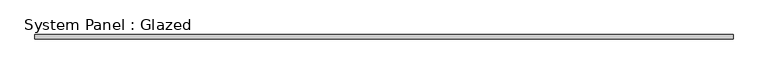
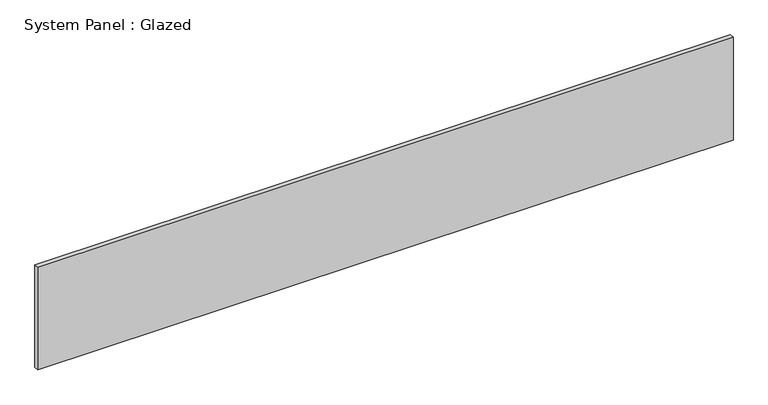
"""IFC4 building model written with IfcOpenShell, lengths in millimetres: plate geometry, System Panel : Glazed."""

from ifc_helpers import new_model, si_unit, origin, origin_with_axes, place, context, project, spatial, polyline, outline, extrude, source, transform, mapped, element, save


def system_panel_glazed_6fe05368(model_context):
    return source(origin(), model_context, "Body", "SweptSolid", [
        extrude(outline(polyline([(1925.0, -49.5), (-1925.0, -49.5), (-1925.0, -24.5), (1925.0, -24.5), (1925.0, -49.5)])), origin_with_axes(), (0.0, 0.0, 1.0), 600.0),
    ])


if __name__ == "__main__":
    model = new_model("IFC4")
    model_context = context("Model", 3, world=origin())
    ifc_project = project(units=[si_unit("LENGTHUNIT", "METRE", prefix="MILLI")], contexts=[model_context])
    site = spatial("IfcSite", under=ifc_project)
    building = spatial("IfcBuilding", under=site)
    placement = place(None, origin())
    system_panel_glazed_shape = system_panel_glazed_6fe05368(model_context)
    element("IfcPlate", 1, ObjectType="System Panel : Glazed", at=placement, inside=building, context=model_context, shape_type="MappedRepresentation", body=[
        mapped(system_panel_glazed_shape, transform((0.0, 0.0, 0.0), x_axis=(1.0, 0.0, 0.0), y_axis=(0.0, 1.0, 0.0), z_axis=(0.0, 0.0, 1.0))),
    ])
    save(model, "model.ifc")
